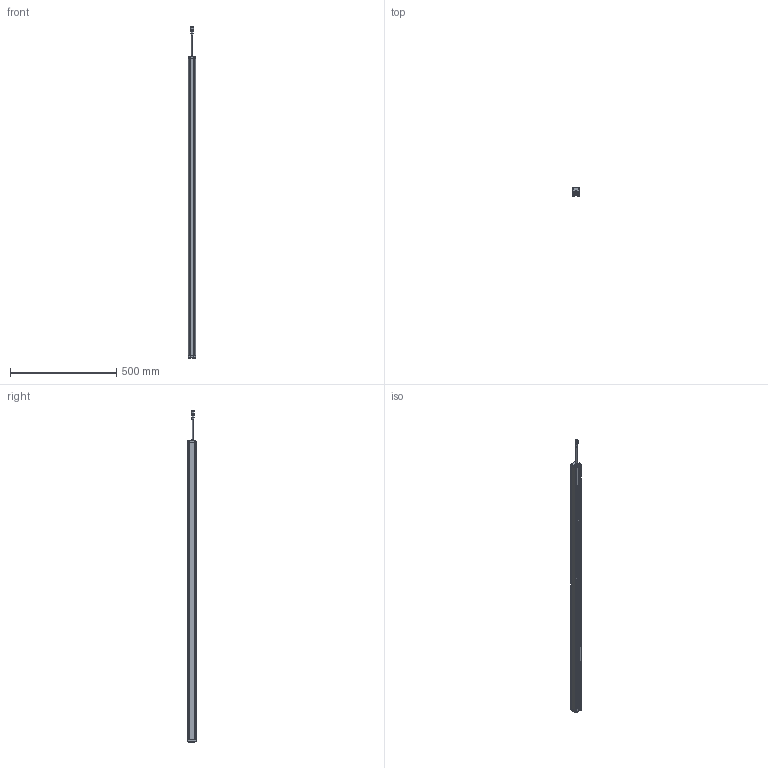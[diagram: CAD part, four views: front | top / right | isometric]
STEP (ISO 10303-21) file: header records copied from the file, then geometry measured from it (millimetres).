
FILE_DESCRIPTION((''),'2;1');
FILE_NAME('PRT0035','2026-03-31T13:47:20',('Administrator'),(''),'CREO PARAMETRIC BY PTC INC, 2016510','CREO PARAMETRIC BY PTC INC, 2016510','');
FILE_SCHEMA(('AUTOMOTIVE_DESIGN { 1 0 10303 214 1 1 1 1 }'));
Length unit declared in the file: millimetre
Products named in the file (1): PRT0035
Bounding box: 33 x 38 x 1561.9 mm (x, y, z)
Surface area: 309236.4 mm2 (no closed solid volume)
Topology: 0 solids, 12 shells, 810 faces, 2135 edges, 1344 vertices
Faces by surface type: plane 384, cylinder 231, extrusion 88, sphere 40, torus 35, cone 28, bspline 4
Entity records: 31744 total; most frequent: CARTESIAN_POINT 5959, ORIENTED_EDGE 4166, DIRECTION 3955, EDGE_CURVE 2083, AXIS2_PLACEMENT_3D 1344, VERTEX_POINT 1344, VECTOR 1267, LINE 1179
